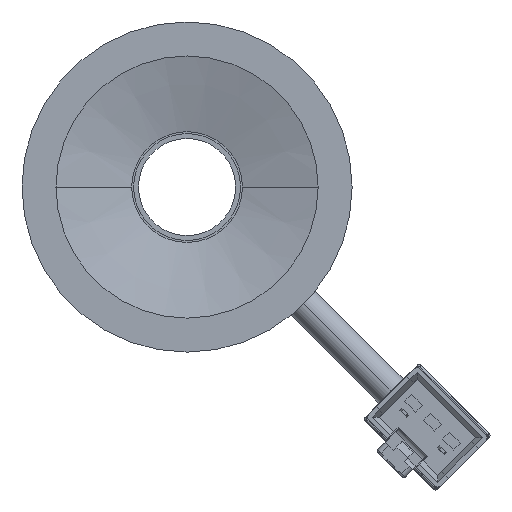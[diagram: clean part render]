
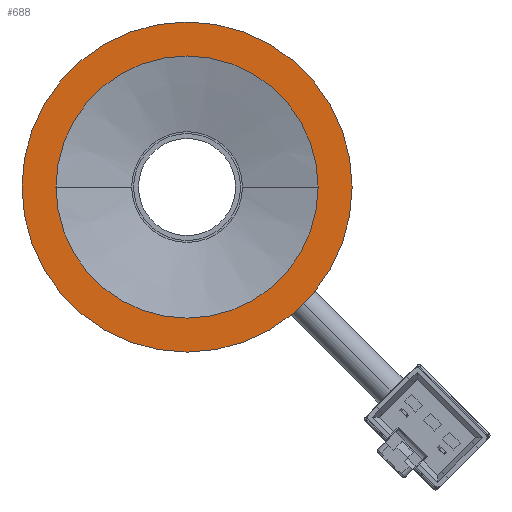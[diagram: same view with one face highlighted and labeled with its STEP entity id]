
A CAD part, front view. The second image highlights one B-rep face of the part: STEP entity #688.
In plain terms, the highlighted planar face has unit normal (0, -1, 0).
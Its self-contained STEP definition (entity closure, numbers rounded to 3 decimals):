
#179=CARTESIAN_POINT('',(0.,-19.,0.));
#180=DIRECTION('',(0.,-1.,0.));
#181=DIRECTION('',(-1.,0.,0.));
#182=AXIS2_PLACEMENT_3D('',#179,#180,#181);
#184=CARTESIAN_POINT('',(0.,-19.,0.));
#185=DIRECTION('',(0.,1.,0.));
#186=DIRECTION('',(-1.,0.,0.));
#187=AXIS2_PLACEMENT_3D('',#184,#185,#186);
#189=CARTESIAN_POINT('',(0.,-19.,0.));
#190=DIRECTION('',(0.,1.,0.));
#191=DIRECTION('',(-1.,0.,0.));
#192=AXIS2_PLACEMENT_3D('',#189,#190,#191);
#202=CARTESIAN_POINT('',(0.,-19.,0.));
#203=DIRECTION('',(0.,-1.,0.));
#204=DIRECTION('',(-1.,0.,0.));
#205=AXIS2_PLACEMENT_3D('',#202,#203,#204);
#357=CARTESIAN_POINT('',(-17.,-19.,0.));
#358=VERTEX_POINT('',#357);
#359=CARTESIAN_POINT('',(-13.5,-19.,0.));
#361=VERTEX_POINT('',#359);
#383=CARTESIAN_POINT('',(17.,-19.,0.));
#384=VERTEX_POINT('',#383);
#385=CARTESIAN_POINT('',(13.5,-19.,0.));
#387=VERTEX_POINT('',#385);
#673=CARTESIAN_POINT('',(0.,-19.,0.));
#674=DIRECTION('',(0.,1.,0.));
#675=DIRECTION('',(1.,0.,0.));
#676=AXIS2_PLACEMENT_3D('',#673,#674,#675);
#677=PLANE('',#676);
#678=ORIENTED_EDGE('',*,*,#652,.F.);
#679=ORIENTED_EDGE('',*,*,#668,.T.);
#680=EDGE_LOOP('',(#678,#679));
#681=FACE_OUTER_BOUND('',#680,.F.);
#683=ORIENTED_EDGE('',*,*,#682,.F.);
#685=ORIENTED_EDGE('',*,*,#684,.T.);
#686=EDGE_LOOP('',(#683,#685));
#687=FACE_BOUND('',#686,.F.);
#688=ADVANCED_FACE('',(#681,#687),#677,.F.);
#183=CIRCLE('',#182,17.);
#188=CIRCLE('',#187,17.);
#193=CIRCLE('',#192,13.5);
#206=CIRCLE('',#205,13.5);
#652=EDGE_CURVE('',#358,#384,#183,.T.);
#668=EDGE_CURVE('',#358,#384,#188,.T.);
#682=EDGE_CURVE('',#361,#387,#193,.T.);
#684=EDGE_CURVE('',#361,#387,#206,.T.);
